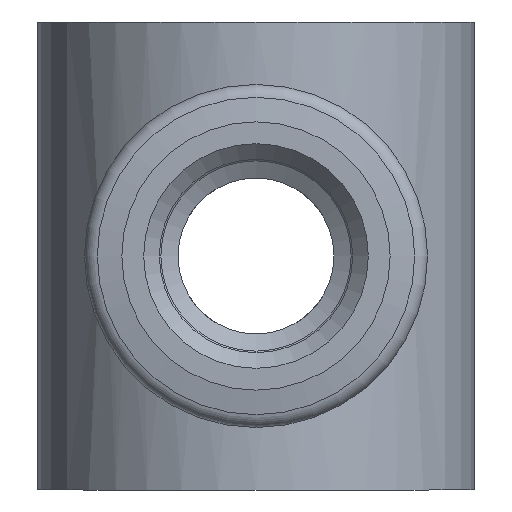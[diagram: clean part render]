
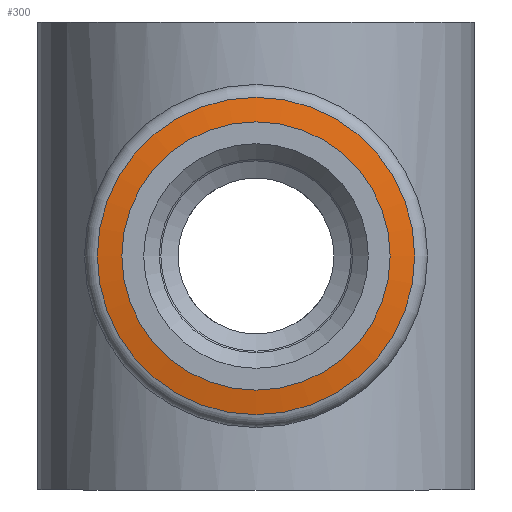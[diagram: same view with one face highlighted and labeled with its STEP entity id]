
A CAD part, left-side view. The second image highlights one B-rep face of the part: STEP entity #300.
In plain terms, the highlighted conical face has half-angle 80 degrees and reference radius 5.087 mm.
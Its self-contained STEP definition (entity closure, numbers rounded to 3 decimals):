
#300=ADVANCED_FACE('', (#310,#320), #330, .T.);
#3060=AXIS2_PLACEMENT_3D('Ax2Pl3d', #3070, #3080, #3090);
#3100=AXIS2_PLACEMENT_3D('Ax2Pl3d', #3110, #3120, #3130);
#3140=AXIS2_PLACEMENT_3D('Ax2Pl3d', #3150, #3160, #3170);
#3070=CARTESIAN_POINT('HicPkt', (9.12,15.714,
13.513));
#34530=CARTESIAN_POINT('', (9.12,15.714,18.6));
#3110=CARTESIAN_POINT('HicPkt', (9.12,15.714,
13.513));
#3150=CARTESIAN_POINT('HicPkt', (8.981,15.714,
13.513));
#34540=CARTESIAN_POINT('', (8.981,15.714,17.813));
#35170=CIRCLE('Circle', #3060, 5.087);
#35180=CIRCLE('Circle', #3140, 4.3);
#330=CONICAL_SURFACE('Kegel', #3100, 5.087, 1.396)
;
#3080=DIRECTION('Axis', (-1.,0.,0.))
;
#3090=DIRECTION('RefDirection', (0.,
0.,-1.));
#3120=DIRECTION('Axis', (1.,0.,0.));
#3130=DIRECTION('RefDirection', (0.,0.,-1.));
#3160=DIRECTION('Axis', (-1.,0.,0.)
);
#3170=DIRECTION('RefDirection', (0.,
0.,-1.));
#37760=EDGE_CURVE('', #37770, #37770, #35170, .T.);
#37780=EDGE_CURVE('', #37790, #37790, #35180, .T.);
#39160=EDGE_LOOP('Edge_loop', (#39170));
#39180=EDGE_LOOP('Edge_loop', (#39190));
#320=FACE_BOUND('', #39180, .T.);
#310=FACE_OUTER_BOUND('Face_outer_bound', #39160, .T.);
#39170=ORIENTED_EDGE('', *, *, #37760, .T.);
#39190=ORIENTED_EDGE('', *, *, #37780, .F.);
#37770=VERTEX_POINT('', #34530);
#37790=VERTEX_POINT('', #34540);
